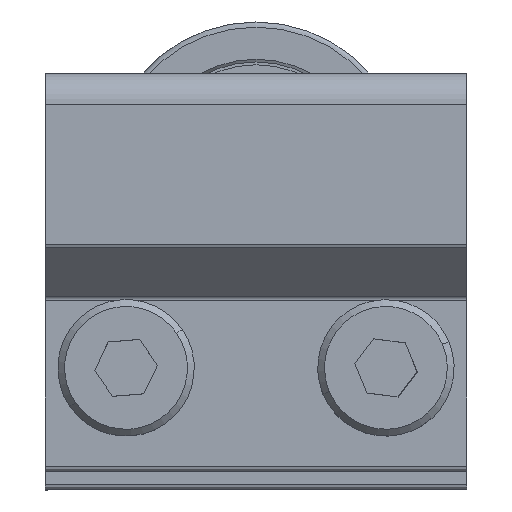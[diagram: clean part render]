
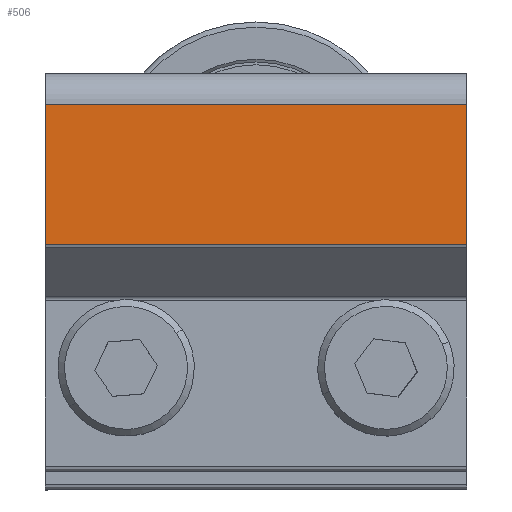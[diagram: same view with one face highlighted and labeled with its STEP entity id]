
A CAD part, top view. The second image highlights one B-rep face of the part: STEP entity #506.
In plain terms, the highlighted planar face has unit normal (0, 0, 1) as drawn and (1, 0, 0) by its records, which use the part's own axes.
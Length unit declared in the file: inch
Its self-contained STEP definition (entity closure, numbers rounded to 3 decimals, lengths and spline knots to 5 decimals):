
#9=DIRECTION('',(0.,-1.,0.));
#10=VECTOR('',#9,0.40379);
#11=CARTESIAN_POINT('',(0.375,0.763,-0.608));
#12=LINE('',#11,#10);
#90=DIRECTION('',(0.,-1.,0.));
#91=VECTOR('',#90,0.40379);
#92=CARTESIAN_POINT('',(0.375,0.763,0.608));
#93=LINE('',#92,#91);
#159=DIRECTION('',(0.,0.,1.));
#160=VECTOR('',#159,1.216);
#161=CARTESIAN_POINT('',(0.375,0.35921,-0.608));
#162=LINE('',#161,#160);
#311=DIRECTION('',(0.,0.,-1.));
#312=VECTOR('',#311,1.216);
#313=CARTESIAN_POINT('',(0.375,0.763,0.608));
#314=LINE('',#313,#312);
#381=CARTESIAN_POINT('',(0.375,0.763,0.608));
#382=CARTESIAN_POINT('',(0.375,0.763,-0.608));
#383=VERTEX_POINT('',#381);
#384=VERTEX_POINT('',#382);
#391=CARTESIAN_POINT('',(0.375,0.35921,-0.608));
#392=CARTESIAN_POINT('',(0.375,0.35921,0.608));
#393=VERTEX_POINT('',#391);
#394=VERTEX_POINT('',#392);
#492=CARTESIAN_POINT('',(0.375,0.763,0.608));
#493=DIRECTION('',(-1.,0.,0.));
#494=DIRECTION('',(0.,-1.,0.));
#495=AXIS2_PLACEMENT_3D('',#492,#493,#494);
#496=PLANE('',#495);
#498=ORIENTED_EDGE('',*,*,#497,.F.);
#500=ORIENTED_EDGE('',*,*,#499,.T.);
#501=ORIENTED_EDGE('',*,*,#448,.T.);
#503=ORIENTED_EDGE('',*,*,#502,.T.);
#504=EDGE_LOOP('',(#498,#500,#501,#503));
#505=FACE_OUTER_BOUND('',#504,.F.);
#448=EDGE_CURVE('',#384,#393,#12,.T.);
#497=EDGE_CURVE('',#383,#394,#93,.T.);
#499=EDGE_CURVE('',#383,#384,#314,.T.);
#502=EDGE_CURVE('',#393,#394,#162,.T.);
#506=ADVANCED_FACE('',(#505),#496,.F.);
